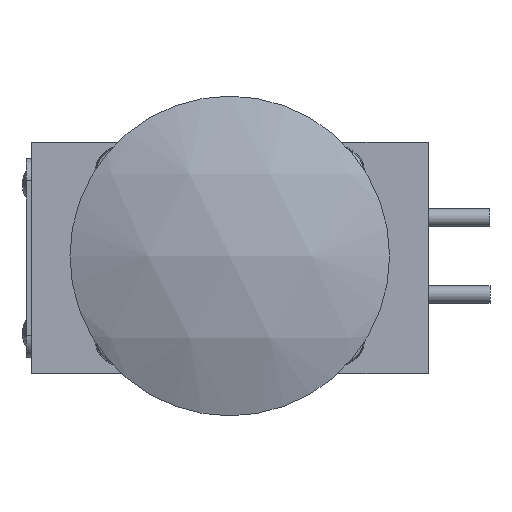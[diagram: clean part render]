
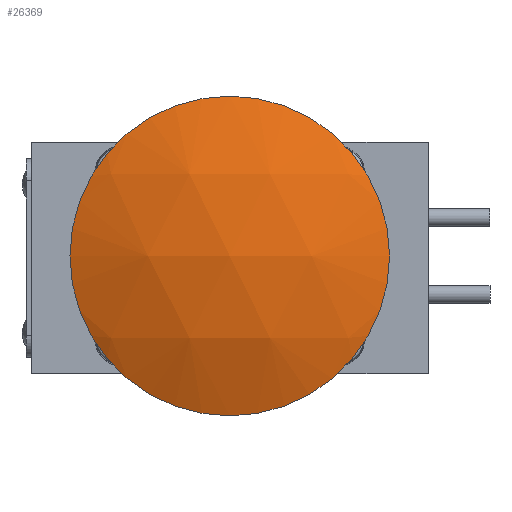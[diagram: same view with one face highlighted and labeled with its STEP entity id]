
A CAD part, left-side view. The second image highlights one B-rep face of the part: STEP entity #26369.
In plain terms, the highlighted spherical face has radius 53.924 mm.
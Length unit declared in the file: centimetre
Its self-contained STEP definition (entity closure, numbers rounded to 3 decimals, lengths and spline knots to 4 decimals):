
#103=SPHERICAL_SURFACE('',#28141,5.3924);
#1980=FACE_OUTER_BOUND('',#3565,.T.);
#3565=EDGE_LOOP('',(#17650,#17651));
#5311=CIRCLE('',#28142,2.3019);
#5312=CIRCLE('',#28143,2.3019);
#10669=VERTEX_POINT('',#40280);
#10670=VERTEX_POINT('',#40281);
#13350=EDGE_CURVE('',#10669,#10670,#5311,.T.);
#13351=EDGE_CURVE('',#10670,#10669,#5312,.T.);
#17650=ORIENTED_EDGE('',*,*,#13350,.F.);
#17651=ORIENTED_EDGE('',*,*,#13351,.F.);
#26369=ADVANCED_FACE('',(#1980),#103,.T.);
#28141=AXIS2_PLACEMENT_3D('',#40279,#32050,#32051);
#28142=AXIS2_PLACEMENT_3D('',#40282,#32052,#32053);
#28143=AXIS2_PLACEMENT_3D('',#40283,#32054,#32055);
#32050=DIRECTION('center_axis',(0.,0.,-1.));
#32051=DIRECTION('ref_axis',(-1.,0.011,0.));
#32052=DIRECTION('center_axis',(1.,0.,0.));
#32053=DIRECTION('ref_axis',(0.,-1.,0.));
#32054=DIRECTION('center_axis',(1.,0.,0.));
#32055=DIRECTION('ref_axis',(0.,-1.,0.));
#40279=CARTESIAN_POINT('Origin',(-5.0559,0.,
0.0305));
#40280=CARTESIAN_POINT('',(-9.9323,-2.3019,0.0305));
#40281=CARTESIAN_POINT('',(-9.9323,2.3019,0.0305));
#40282=CARTESIAN_POINT('Origin',(-9.9323,0.,
0.0305));
#40283=CARTESIAN_POINT('Origin',(-9.9323,0.,
0.0305));
